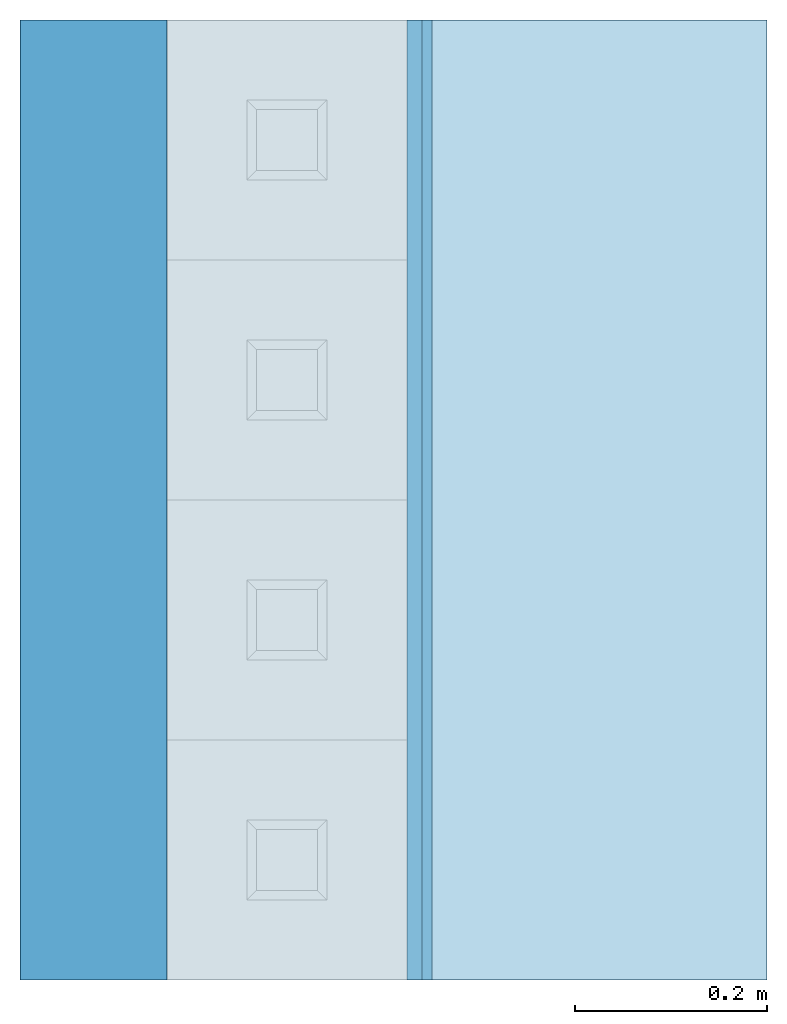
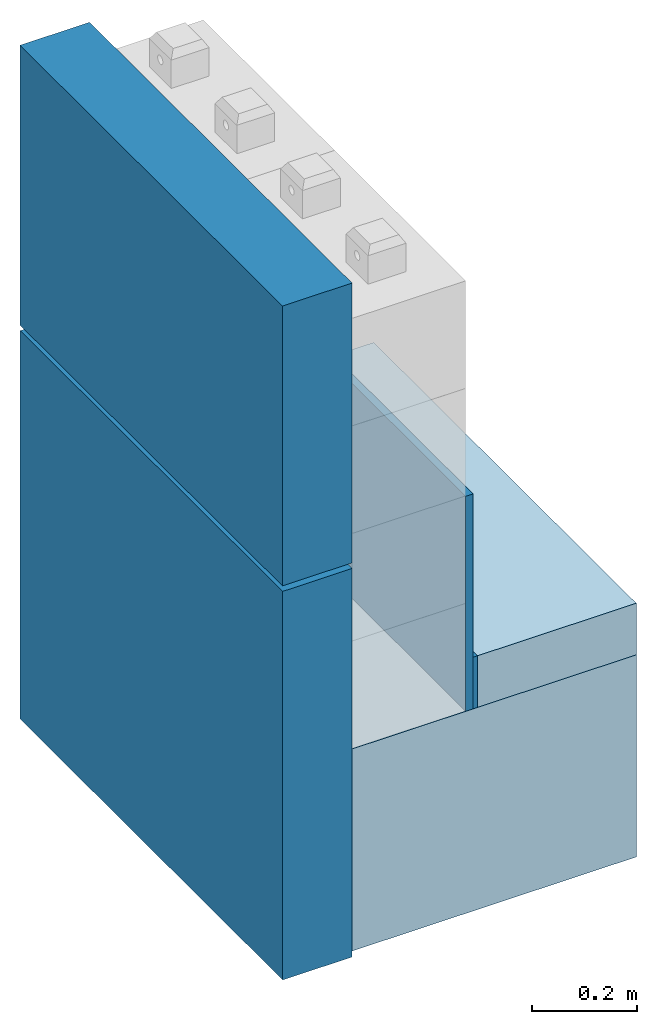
# One storey, incomplete: 4 walls, 2 slabs.
"""IFC4 building model written with IfcOpenShell, lengths in centimetres."""

from ifc_helpers import new_model, entity, si_unit, converted_unit, direction, frame, origin, place, context, subcontext, project, spatial, indexed_curve, outline, extrude, material, constituent, constituent_set, type_object, element, save


model = new_model("IFC4")

# Units and contexts
model_context = context("Model", 3, precision=0.001, world=origin(), true_north=direction((0.0, 1.0)))
body_context = subcontext(model_context, "Body", "Model", "MODEL_VIEW")
ifc_project = project(units=[si_unit("LENGTHUNIT", "METRE", prefix="CENTI"), si_unit("AREAUNIT", "SQUARE_METRE"), si_unit("VOLUMEUNIT", "CUBIC_METRE"), converted_unit("PLANEANGLEUNIT", "DEGREE", entity("IfcPlaneAngleMeasure", 0.017453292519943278), si_unit("PLANEANGLEUNIT", "RADIAN"), dimensions=[0, 0, 0, 0, 0, 0, 0])], contexts=[model_context])

# Site, building, storey
site_placement = place(None, origin())
site = spatial("IfcSite", under=ifc_project, at=site_placement, Name="Default", CompositionType="ELEMENT")
building_placement = place(site_placement, origin())
building = spatial("IfcBuilding", under=site, at=building_placement, CompositionType="ELEMENT")
storey_placement = place(building_placement, frame((0.0, 0.0, -12.0)))
storey = spatial("IfcBuildingStorey", under=building, at=storey_placement, Name="L00__ABOVE Slab", CompositionType="ELEMENT", Elevation=-12.000000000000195)

# Slabs
ifc_material_1 = material(Name="_FND LAYERS__Insulation__Foam Glass__Glapor", Category="Unassigned")
ifc_constituent_1 = constituent(ifc_material_1, Name="_FND LAYERS__Insulation__Foam Glass__Glapor", Category="Unassigned", fraction=0.2553191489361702)
ifc_constituent_2 = constituent(ifc_material_1, Name="_FND LAYERS__Insulation__Foam Glass__Glapor", Category="Unassigned", fraction=0.2553191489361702)
ifc_material_2 = material(Name="_FCD FINISH__Spray-cork", Category="Concrete")
ifc_constituent_3 = constituent(ifc_material_2, Name="_FCD FINISH__Spray-cork", Category="Concrete", fraction=0.06382978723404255)
ifc_material_3 = material(Name="_OBJECT__Casework__Stone")
ifc_constituent_4 = constituent(ifc_material_3, Name="_OBJECT__Casework__Stone", fraction=0.425531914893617)
ifc_constituent_set_1 = constituent_set(constituents=[ifc_constituent_1, ifc_constituent_2, ifc_constituent_3, ifc_constituent_4], Name="Floor:flr__WP & INSULATION__GLAPOR")
slab_type_1 = type_object("IfcSlabType", Name="Floors : Floor : flr__WP & INSULATION__GLAPOR", PredefinedType="FLOOR", material=ifc_constituent_set_1)
slab_1_placement = place(storey_placement, origin())
element("IfcSlab", 1, at=slab_1_placement, inside=storey, type_object=slab_type_1, material=ifc_constituent_set_1, Name="Floors : Floor : flr__WP & INSULATION__GLAPOR", PredefinedType="FLOOR", context=body_context, shape_type="SweptSolid", body=[
    extrude(outline(indexed_curve([(-31.25000000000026, -50.00000000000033), (31.250000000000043, -50.00000000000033), (31.250000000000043, 49.99999999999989), (-31.25000000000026, 49.99999999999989), (-31.25000000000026, -50.00000000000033)], self_intersect=False)), frame((1444.3994566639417, 2059.371873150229, -2.0), z_axis=(0.0, 0.0, 1.0), x_axis=(-1.0, 0.0, 0.0)), (0.0, 0.0, 1.0), 12.0),
    extrude(outline(indexed_curve([(-31.25000000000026, -50.00000000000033), (31.250000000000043, -50.00000000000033), (31.250000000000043, 49.99999999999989), (-31.25000000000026, 49.99999999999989), (-31.25000000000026, -50.00000000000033)], self_intersect=False)), frame((1444.3994566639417, 2059.371873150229, -14.0), z_axis=(0.0, 0.0, 1.0), x_axis=(-1.0, 0.0, 0.0)), (0.0, 0.0, 1.0), 12.0),
    extrude(outline(indexed_curve([(-31.25000000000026, -50.00000000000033), (31.250000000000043, -50.00000000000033), (31.250000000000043, 49.99999999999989), (-31.25000000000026, 49.99999999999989), (-31.25000000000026, -50.00000000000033)], self_intersect=False)), frame((1444.3994566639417, 2059.371873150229, -17.0), z_axis=(0.0, 0.0, 1.0), x_axis=(-1.0, 0.0, 0.0)), (0.0, 0.0, 1.0), 3.0000000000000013),
    extrude(outline(indexed_curve([(-31.25000000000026, -50.00000000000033), (31.250000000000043, -50.00000000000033), (31.250000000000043, 49.99999999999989), (-31.25000000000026, 49.99999999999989), (-31.25000000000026, -50.00000000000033)], self_intersect=False)), frame((1444.3994566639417, 2059.371873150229, -37.0), z_axis=(0.0, 0.0, 1.0), x_axis=(-1.0, 0.0, 0.0)), (0.0, 0.0, 1.0), 20.0),
])
ifc_material_4 = material(Name="_FINISH STAIR__Int__Parquet Flooring__Stairs", Category="Unassigned")
ifc_constituent_5 = constituent(ifc_material_4, Name="_FINISH STAIR__Int__Parquet Flooring__Stairs", Category="Unassigned", fraction=0.08333333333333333)
ifc_material_5 = material(Name="_FLR LAYERS__Screed, SL 0.5%__Semi-dry CEM, Rc ≥ 22.5 N/mm²", Category="Concrete")
ifc_constituent_6 = constituent(ifc_material_5, Name="_FLR LAYERS__Screed, SL 0.5%__Semi-dry CEM, Rc ≥ 22.5 N/mm²", Category="Concrete", fraction=0.2916666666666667)
ifc_material_6 = material(Name="_FLR COVERING__Polished Concrete", Category="Concrete")
ifc_constituent_7 = constituent(ifc_material_6, Name="_FLR COVERING__Polished Concrete", Category="Concrete", fraction=0.5833333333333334)
ifc_material_7 = material(Name="_FCD VENT LAYERS__Support Board__OSB 3", Category="Ceramic")
ifc_constituent_8 = constituent(ifc_material_7, Name="_FCD VENT LAYERS__Support Board__OSB 3", Category="Ceramic", fraction=0.041666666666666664)
ifc_constituent_set_2 = constituent_set(constituents=[ifc_constituent_5, ifc_constituent_6, ifc_constituent_7, ifc_constituent_8], Name="Floor:flr__INT COVERING__Parquet")
slab_type_2 = type_object("IfcSlabType", Name="Floors : Floor : flr__INT COVERING__Parquet", PredefinedType="FLOOR", material=ifc_constituent_set_2)
slab_2_placement = place(storey_placement, origin())
element("IfcSlab", 2, at=slab_2_placement, inside=storey, type_object=slab_type_2, material=ifc_constituent_set_2, Name="Floors : Floor : flr__INT COVERING__Parquet", PredefinedType="FLOOR", context=body_context, shape_type="SweptSolid", body=[
    extrude(outline(indexed_curve([(-17.449999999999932, -50.00000000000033), (17.449999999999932, -50.00000000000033), (17.449999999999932, 49.99999999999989), (-17.449999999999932, 49.99999999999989), (-17.449999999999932, -50.00000000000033)], self_intersect=False)), frame((1458.199456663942, 2059.371873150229, 21.0), z_axis=(0.0, 0.0, 1.0), x_axis=(-1.0, 0.0, 0.0)), (0.0, 0.0, 1.0), 0.9999999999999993),
    extrude(outline(indexed_curve([(-17.449999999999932, -50.00000000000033), (17.449999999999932, -50.00000000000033), (17.449999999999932, 49.99999999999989), (-17.449999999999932, 49.99999999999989), (-17.449999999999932, -50.00000000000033)], self_intersect=False)), frame((1458.199456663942, 2059.371873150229, 17.499999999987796), z_axis=(0.0, 0.0, 1.0), x_axis=(-1.0, 0.0, 0.0)), (0.0, 0.0, 1.0), 3.5000000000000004),
    extrude(outline(indexed_curve([(-17.449999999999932, -50.00000000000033), (17.449999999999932, -50.00000000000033), (17.449999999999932, 49.99999999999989), (-17.449999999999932, 49.99999999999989), (-17.449999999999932, -50.00000000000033)], self_intersect=False)), frame((1458.199456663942, 2059.371873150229, 10.499999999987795), z_axis=(0.0, 0.0, 1.0), x_axis=(-1.0, 0.0, 0.0)), (0.0, 0.0, 1.0), 7.0),
    extrude(outline(indexed_curve([(-17.449999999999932, -50.00000000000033), (17.449999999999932, -50.00000000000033), (17.449999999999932, 49.99999999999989), (-17.449999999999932, 49.99999999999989), (-17.449999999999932, -50.00000000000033)], self_intersect=False)), frame((1458.199456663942, 2059.371873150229, 10.0), z_axis=(0.0, 0.0, 1.0), x_axis=(-1.0, 0.0, 0.0)), (0.0, 0.0, 1.0), 0.49999999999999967),
])

# Walls
ifc_material_8 = material(Name="_FCD FINISH__Mineral Render__Combed, H L/O__Capatect Kreativeffekt \"Filigrano\"__White", Category="Concrete")
ifc_constituent_9 = constituent(ifc_material_8, Name="_FCD FINISH__Mineral Render__Combed, H L/O__Capatect Kreativeffekt \"Filigrano\"__White", Category="Concrete", fraction=0.0196078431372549)
ifc_material_9 = material(Name="_STRUCTURE__Wood Solid")
ifc_constituent_10 = constituent(ifc_material_9, Name="_STRUCTURE__Wood Solid", fraction=0.06535947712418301)
ifc_material_10 = material(Name="_FCD LAYERS__Insulation__Wood-fiber__Steico", Category="Unassigned")
ifc_constituent_11 = constituent(ifc_material_10, Name="_FCD LAYERS__Insulation__Wood-fiber__Steico", Category="Unassigned", fraction=0.9150326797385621)
ifc_constituent_set_3 = constituent_set(constituents=[ifc_constituent_9, ifc_constituent_10, ifc_constituent_11], Name="Basic Wall:wll__EXT ENCLOSURE__Spritzkork, Wood Insulation 8.4cm__TriqBriq, FS.1")
wall_type_1 = type_object("IfcWallType", Name="Walls : Basic Wall : wll__EXT ENCLOSURE__Spritzkork, Wood Insulation 8.4cm__TriqBriq, FS.1", PredefinedType="STANDARD", material=ifc_constituent_set_3)
wall_1_placement = place(storey_placement, frame((1405.4994566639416, 2109.3718731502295, 53.26666666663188), z_axis=(0.0, 0.0, 1.0), x_axis=(0.0, -1.0, 0.0)))
element("IfcWall", 3, at=wall_1_placement, inside=storey, type_object=wall_type_1, material=ifc_constituent_set_3, Name="Walls : Basic Wall : wll__EXT ENCLOSURE__Spritzkork, Wood Insulation 8.4cm__TriqBriq, FS.1", PredefinedType="NOTDEFINED", context=body_context, shape_type="SweptSolid", body=[
    extrude(outline(indexed_curve([(-6.9999999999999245, -50.00000000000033), (7.000000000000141, -50.00000000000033), (7.000000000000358, 49.99999999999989), (-6.999999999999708, 49.99999999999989), (-6.9999999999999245, -50.00000000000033)], self_intersect=False)), frame((50.0, 0.6500000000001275, 0.0), z_axis=(0.0, 0.0, 1.0), x_axis=(0.0, -1.0, 0.0)), (0.0, 0.0, 1.0), 65.06666666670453),
    extrude(outline(indexed_curve([(-49.99999999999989, -0.4999999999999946), (50.00000000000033, -0.4999999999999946), (50.00000000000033, 0.4999999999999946), (-49.99999999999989, 0.4999999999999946), (-49.99999999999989, -0.4999999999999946)], self_intersect=False)), frame((50.0, -6.850000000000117, 0.0)), (0.0, 0.0, 1.0), 65.06666666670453),
    extrude(outline(indexed_curve([(-0.15000000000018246, -50.00000000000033), (0.14999999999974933, -50.00000000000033), (0.14999999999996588, 49.99999999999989), (-0.14999999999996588, 49.99999999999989), (-0.15000000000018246, -50.00000000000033)], self_intersect=False)), frame((50.0, -7.499999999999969, 0.0), z_axis=(0.0, 0.0, 1.0), x_axis=(0.0, 1.0, 0.0)), (0.0, 0.0, 1.0), 65.06666666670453),
])
ifc_constituent_12 = constituent(ifc_material_1, Name="_FND LAYERS__Insulation__Foam Glass__Glapor", Category="Unassigned", fraction=0.918032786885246)
ifc_constituent_13 = constituent(ifc_material_10, Name="_FCD LAYERS__Insulation__Wood-fiber__Steico", Category="Unassigned", fraction=0.0819672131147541)
ifc_constituent_set_4 = constituent_set(constituents=[ifc_constituent_12, ifc_constituent_13], Name="Basic Wall:wll__EXT ENCLOSURE__GLAPOR")
wall_type_2 = type_object("IfcWallType", Name="Walls : Basic Wall : wll__EXT ENCLOSURE__GLAPOR", PredefinedType="STANDARD", material=ifc_constituent_set_4)
wall_2_placement = place(storey_placement, frame((1405.5244566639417, 2109.3718731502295, -38.38770897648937), z_axis=(0.0, 0.0, 1.0), x_axis=(0.0, -1.0, 0.0)))
element("IfcWall", 4, at=wall_2_placement, inside=storey, type_object=wall_type_2, material=ifc_constituent_set_4, Name="Walls : Basic Wall : wll__EXT ENCLOSURE__GLAPOR", PredefinedType="NOTDEFINED", context=body_context, shape_type="SweptSolid", body=[
    extrude(outline(indexed_curve([(-0.6250000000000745, -50.00000000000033), (0.6249999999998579, -50.00000000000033), (0.6250000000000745, 49.99999999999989), (-0.6249999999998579, 49.99999999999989), (-0.6250000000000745, -50.00000000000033)], self_intersect=False)), frame((50.0, 7.0, 0.0), z_axis=(0.0, 0.0, 1.0), x_axis=(0.0, -1.0, 0.0)), (0.0, 0.0, 1.0), 90.35437564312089),
    extrude(outline(indexed_curve([(-7.000000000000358, -50.00000000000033), (6.999999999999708, -50.00000000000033), (6.9999999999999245, 49.99999999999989), (-7.000000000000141, 49.99999999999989), (-7.000000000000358, -50.00000000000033)], self_intersect=False)), frame((50.0, -0.6249999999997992, 0.0), z_axis=(0.0, 0.0, 1.0), x_axis=(0.0, 1.0, 0.0)), (0.0, 0.0, 1.0), 90.35437564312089),
])
ifc_material_11 = material(Name="_WLL & CLG FINISHES__Lime - CEM Plaster", Category="Unassigned")
ifc_constituent_14 = constituent(ifc_material_11, Name="_WLL & CLG FINISHES__Lime - CEM Plaster", Category="Unassigned", fraction=0.37499999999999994)
ifc_material_12 = material(Name="_FCD LAYERS__Insulation__EPS 120__Austrotherm EPS A120")
ifc_constituent_15 = constituent(ifc_material_12, Name="_FCD LAYERS__Insulation__EPS 120__Austrotherm EPS A120", fraction=0.625)
ifc_constituent_set_5 = constituent_set(constituents=[ifc_constituent_14, ifc_constituent_15], Name="Basic Wall:wll__INT FINISH__Spritzkork, Lime - CEM Plaster 2.4cm TRIQBRIQ")
wall_type_3 = type_object("IfcWallType", Name="Walls : Basic Wall : wll__INT FINISH__Spritzkork, Lime - CEM Plaster 2.4cm TRIQBRIQ", PredefinedType="STANDARD", material=ifc_constituent_set_5)
wall_3_placement = place(storey_placement, frame((1438.9494566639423, 2109.3718731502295, 10.0), z_axis=(0.0, 0.0, 1.0), x_axis=(0.0, -1.0, 0.0)))
element("IfcWall", 5, at=wall_3_placement, inside=storey, type_object=wall_type_3, material=ifc_constituent_set_5, Name="Walls : Basic Wall : wll__INT FINISH__Spritzkork, Lime - CEM Plaster 2.4cm TRIQBRIQ", PredefinedType="NOTDEFINED", context=body_context, shape_type="SweptSolid", body=[
    extrude(outline(indexed_curve([(-0.5000000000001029, -50.00000000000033), (0.4999999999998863, -50.00000000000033), (0.5000000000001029, 49.99999999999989), (-0.4999999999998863, 49.99999999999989), (-0.5000000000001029, -50.00000000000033)], self_intersect=False)), frame((50.0, -0.30000000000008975, 0.0), z_axis=(0.0, 0.0, 1.0), x_axis=(0.0, 1.0, 0.0)), (0.0, 0.0, 1.0), 50.00000000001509),
    extrude(outline(indexed_curve([(-0.30000000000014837, -50.00000000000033), (0.29999999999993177, -50.00000000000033), (0.30000000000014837, 49.99999999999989), (-0.29999999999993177, 49.99999999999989), (-0.30000000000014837, -50.00000000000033)], self_intersect=False)), frame((50.0, 0.499999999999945, 0.0), z_axis=(0.0, 0.0, 1.0), x_axis=(0.0, -1.0, 0.0)), (0.0, 0.0, 1.0), 50.00000000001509),
])
ifc_constituent_16 = constituent(ifc_material_1, Name="_FND LAYERS__Insulation__Foam Glass__Glapor", Category="Unassigned", fraction=1.0)
ifc_constituent_set_6 = constituent_set(constituents=[ifc_constituent_16], Name="Basic Wall:wll__WP & INSULATION_1cm")
wall_type_4 = type_object("IfcWallType", Name="Walls : Basic Wall : wll__WP & INSULATION_1cm", PredefinedType="STANDARD", material=ifc_constituent_set_6)
wall_4_placement = place(storey_placement, frame((1440.2494566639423, 2109.3718731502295, 10.0), z_axis=(0.0, 0.0, 1.0), x_axis=(0.0, -1.0, 0.0)))
element("IfcWall", 6, at=wall_4_placement, inside=storey, type_object=wall_type_4, material=ifc_constituent_set_6, Name="Walls : Basic Wall : wll__WP & INSULATION_1cm", PredefinedType="NOTDEFINED", context=body_context, shape_type="SweptSolid", body=[
    extrude(outline(indexed_curve([(100.00000000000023, 0.5000000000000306), (-7.219114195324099e-16, 0.5000000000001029), (7.219114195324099e-16, -0.5000000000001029), (100.00000000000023, -0.5000000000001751), (100.00000000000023, 0.5000000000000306)], self_intersect=False)), origin(), (0.0, 0.0, 1.0), 12.0),
])

save(model, "model.ifc")
